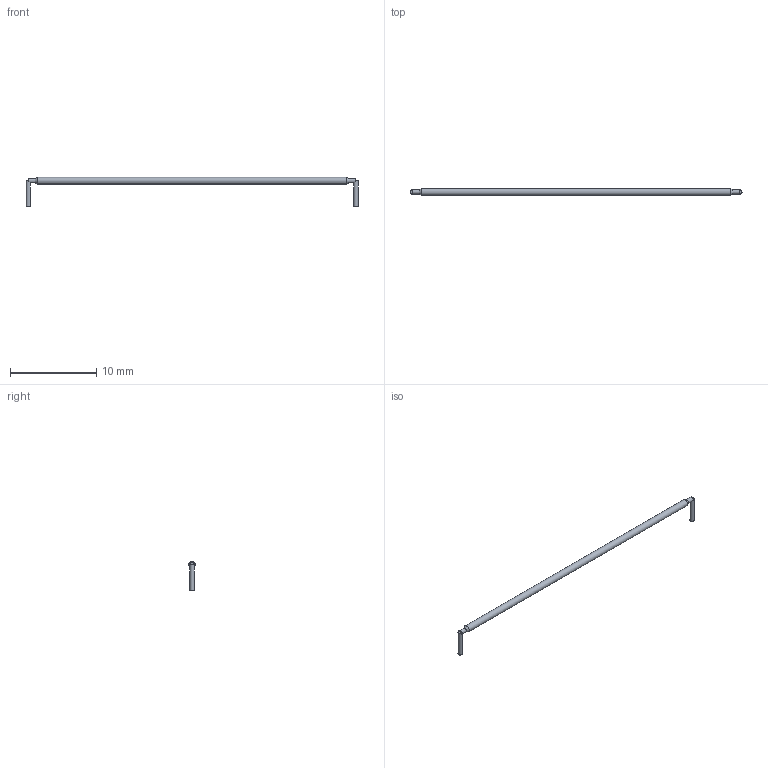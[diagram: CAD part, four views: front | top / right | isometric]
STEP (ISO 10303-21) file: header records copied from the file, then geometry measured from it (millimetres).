
FILE_DESCRIPTION(('FreeCAD Model'),'2;1');
FILE_NAME('Open CASCADE Shape Model','2026-04-07T19:07:43',('FreeCAD'),( 'FreeCAD'),'Open CASCADE STEP processor 7.8','FreeCAD','Unknown');
FILE_SCHEMA(('AUTOMOTIVE_DESIGN { 1 0 10303 214 1 1 1 1 }'));
Length unit declared in the file: millimetre
Products named in the file (1): Open CASCADE STEP translator 7.8 15
Bounding box: 38.6 x 0.8 x 3.4 mm (x, y, z)
Volume: 26.9 mm3; surface area: 162.4 mm2
Topology: 4 solids, 4 shells, 14 faces, 16 edges, 10 vertices
Faces by surface type: plane 8, cylinder 4, cone 2
Full cylindrical faces by diameter (mm): 0.5 x3, 0.8 x1
Entity records: 287 total; most frequent: DIRECTION 56, CARTESIAN_POINT 41, ORIENTED_EDGE 32, AXIS2_PLACEMENT_3D 25, EDGE_CURVE 16, ADVANCED_FACE 14, FACE_BOUND 14, EDGE_LOOP 14
